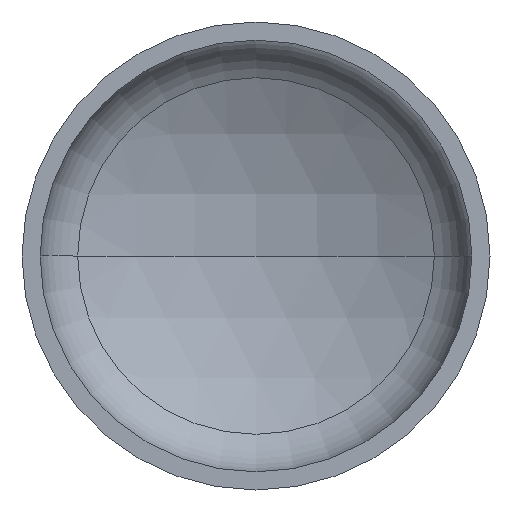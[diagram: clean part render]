
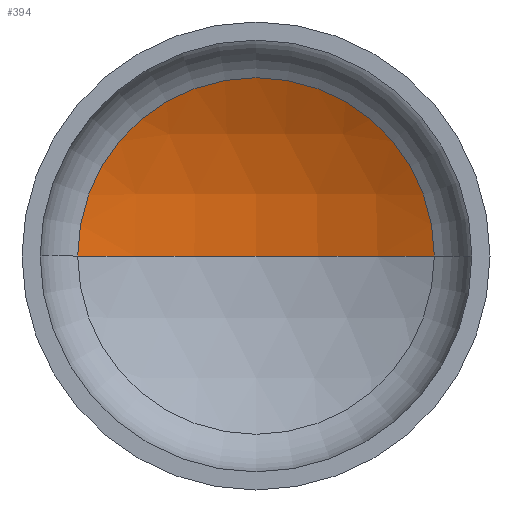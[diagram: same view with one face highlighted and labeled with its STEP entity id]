
A CAD part, front view. The second image highlights one B-rep face of the part: STEP entity #394.
In plain terms, the highlighted spherical face has radius 1280 mm.
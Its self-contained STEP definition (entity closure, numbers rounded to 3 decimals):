
#3 = AXIS2_PLACEMENT_3D ( 'NONE', #116, #123, #91 ) ;
#16 = CARTESIAN_POINT ( 'NONE',  ( 0., 489.958, 0. ) ) ;
#17 = DIRECTION ( 'NONE',  ( -1., 0., 0. ) ) ;
#26 = AXIS2_PLACEMENT_3D ( 'NONE', #95, #83, #17 ) ;
#27 = AXIS2_PLACEMENT_3D ( 'NONE', #200, #220, #314 ) ;
#34 = EDGE_LOOP ( 'NONE', ( #126, #396, #158 ) ) ;
#74 = EDGE_CURVE ( 'NONE', #108, #202, #375, .T. ) ;
#77 = EDGE_CURVE ( 'NONE', #103, #108, #165, .T. ) ;
#83 = DIRECTION ( 'NONE',  ( 0., 0., -1. ) ) ;
#91 = DIRECTION ( 'NONE',  ( 1., 0., 0. ) ) ;
#95 = CARTESIAN_POINT ( 'NONE',  ( 0., -790.042, 0. ) ) ;
#103 = VERTEX_POINT ( 'NONE', #16 ) ;
#108 = VERTEX_POINT ( 'NONE', #204 ) ;
#116 = CARTESIAN_POINT ( 'NONE',  ( 0., -790.042, 0. ) ) ;
#123 = DIRECTION ( 'NONE',  ( 0., 0., 1. ) ) ;
#126 = ORIENTED_EDGE ( 'NONE', *, *, #357, .F. ) ;
#157 = DIRECTION ( 'NONE',  ( 0., 0., -1. ) ) ;
#158 = ORIENTED_EDGE ( 'NONE', *, *, #74, .T. ) ;
#165 = CIRCLE ( 'NONE', #26, 1280. ) ;
#169 = AXIS2_PLACEMENT_3D ( 'NONE', #226, #157, #350 ) ;
#200 = CARTESIAN_POINT ( 'NONE',  ( 0., 335.421, 0. ) ) ;
#202 = VERTEX_POINT ( 'NONE', #210 ) ;
#204 = CARTESIAN_POINT ( 'NONE',  ( 609.7, 335.421, 0. ) ) ;
#210 = CARTESIAN_POINT ( 'NONE',  ( -609.7, 335.421, 0. ) ) ;
#220 = DIRECTION ( 'NONE',  ( 0., -1., 0. ) ) ;
#226 = CARTESIAN_POINT ( 'NONE',  ( 0., -790.042, 0. ) ) ;
#252 = FACE_OUTER_BOUND ( 'NONE', #34, .T. ) ;
#314 = DIRECTION ( 'NONE',  ( 1., 0., 0. ) ) ;
#340 = CIRCLE ( 'NONE', #3, 1280. ) ;
#350 = DIRECTION ( 'NONE',  ( -1., 0., 0. ) ) ;
#357 = EDGE_CURVE ( 'NONE', #103, #202, #340, .T. ) ;
#375 = CIRCLE ( 'NONE', #27, 609.7 ) ;
#385 = SPHERICAL_SURFACE ( 'NONE', #169, 1280. ) ;
#394 = ADVANCED_FACE ( 'NONE', ( #252 ), #385, .F. ) ;
#396 = ORIENTED_EDGE ( 'NONE', *, *, #77, .T. ) ;
